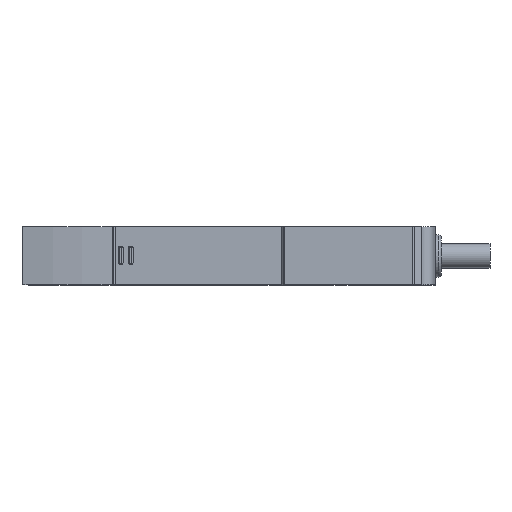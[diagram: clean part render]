
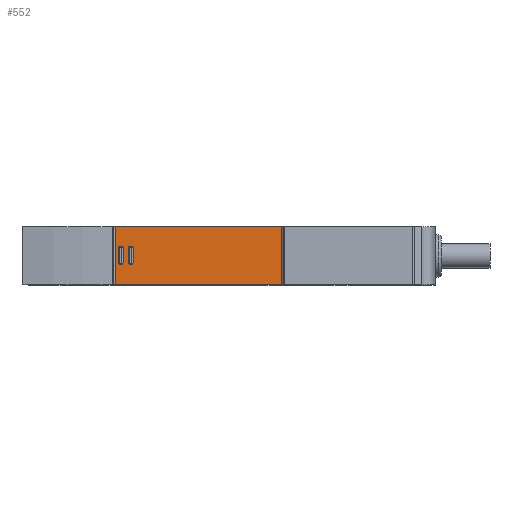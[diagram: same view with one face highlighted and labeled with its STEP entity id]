
A CAD part, top view. The second image highlights one B-rep face of the part: STEP entity #552.
In plain terms, the highlighted planar face has unit normal (0, 0, 1).
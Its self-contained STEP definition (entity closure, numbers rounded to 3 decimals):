
#552 = ADVANCED_FACE( '', ( #1146, #1147, #1148 ), #1149, .T. );
#1146 = FACE_OUTER_BOUND( '', #1759, .T. );
#1147 = FACE_BOUND( '', #1760, .T. );
#1148 = FACE_BOUND( '', #1761, .T. );
#1149 = PLANE( '', #1762 );
#1759 = EDGE_LOOP( '', ( #3389, #3390, #3391, #3392 ) );
#1760 = EDGE_LOOP( '', ( #3393, #3394, #3395, #3396, #3397, #3398, #3399, #3400 ) );
#1761 = EDGE_LOOP( '', ( #3401, #3402, #3403, #3404, #3405, #3406, #3407, #3408 ) );
#1762 = AXIS2_PLACEMENT_3D( '', #3409, #3410, #3411 );
#3389 = ORIENTED_EDGE( '', *, *, #3736, .F. );
#3390 = ORIENTED_EDGE( '', *, *, #3930, .T. );
#3391 = ORIENTED_EDGE( '', *, *, #4173, .T. );
#3392 = ORIENTED_EDGE( '', *, *, #3947, .T. );
#3393 = ORIENTED_EDGE( '', *, *, #4258, .T. );
#3394 = ORIENTED_EDGE( '', *, *, #3702, .T. );
#3395 = ORIENTED_EDGE( '', *, *, #3836, .T. );
#3396 = ORIENTED_EDGE( '', *, *, #4012, .T. );
#3397 = ORIENTED_EDGE( '', *, *, #4230, .T. );
#3398 = ORIENTED_EDGE( '', *, *, #4228, .T. );
#3399 = ORIENTED_EDGE( '', *, *, #4259, .T. );
#3400 = ORIENTED_EDGE( '', *, *, #4028, .T. );
#3401 = ORIENTED_EDGE( '', *, *, #4095, .F. );
#3402 = ORIENTED_EDGE( '', *, *, #4250, .T. );
#3403 = ORIENTED_EDGE( '', *, *, #3970, .F. );
#3404 = ORIENTED_EDGE( '', *, *, #3915, .T. );
#3405 = ORIENTED_EDGE( '', *, *, #3822, .F. );
#3406 = ORIENTED_EDGE( '', *, *, #4205, .T. );
#3407 = ORIENTED_EDGE( '', *, *, #4062, .F. );
#3408 = ORIENTED_EDGE( '', *, *, #3641, .T. );
#3409 = CARTESIAN_POINT( '', ( -25.685, -5., 18.849 ) );
#3410 = DIRECTION( '', ( 0., 0., 1. ) );
#3411 = DIRECTION( '', ( 1., 0., 0. ) );
#3641 = EDGE_CURVE( '', #4325, #4329, #4331, .F. );
#3702 = EDGE_CURVE( '', #4431, #4435, #4437, .F. );
#3736 = EDGE_CURVE( '', #4500, #4502, #4503, .T. );
#3822 = EDGE_CURVE( '', #4648, #4644, #4650, .T. );
#3836 = EDGE_CURVE( '', #4435, #4672, #4674, .T. );
#3915 = EDGE_CURVE( '', #4791, #4644, #4793, .F. );
#3930 = EDGE_CURVE( '', #4500, #4813, #4816, .F. );
#3947 = EDGE_CURVE( '', #4840, #4502, #4842, .T. );
#3970 = EDGE_CURVE( '', #4791, #4872, #4876, .T. );
#4012 = EDGE_CURVE( '', #4672, #4933, #4935, .F. );
#4028 = EDGE_CURVE( '', #4955, #4959, #4961, .F. );
#4062 = EDGE_CURVE( '', #4325, #5010, #5013, .T. );
#4095 = EDGE_CURVE( '', #5053, #4329, #5055, .T. );
#4173 = EDGE_CURVE( '', #4813, #4840, #5153, .T. );
#4205 = EDGE_CURVE( '', #4648, #5010, #5187, .F. );
#4228 = EDGE_CURVE( '', #5208, #5210, #5212, .F. );
#4230 = EDGE_CURVE( '', #4933, #5208, #5214, .T. );
#4250 = EDGE_CURVE( '', #5053, #4872, #5235, .F. );
#4258 = EDGE_CURVE( '', #4959, #4431, #5243, .T. );
#4259 = EDGE_CURVE( '', #5210, #4955, #5244, .T. );
#4325 = VERTEX_POINT( '', #5318 );
#4329 = VERTEX_POINT( '', #5323 );
#4331 = CIRCLE( '', #5326, 0.3 );
#4431 = VERTEX_POINT( '', #5510 );
#4435 = VERTEX_POINT( '', #5515 );
#4437 = CIRCLE( '', #5518, 0.3 );
#4500 = VERTEX_POINT( '', #5603 );
#4502 = VERTEX_POINT( '', #5605 );
#4503 = LINE( '', #5606, #5607 );
#4644 = VERTEX_POINT( '', #5797 );
#4648 = VERTEX_POINT( '', #5803 );
#4650 = LINE( '', #5806, #5807 );
#4672 = VERTEX_POINT( '', #5832 );
#4674 = LINE( '', #5835, #5836 );
#4791 = VERTEX_POINT( '', #6011 );
#4793 = CIRCLE( '', #6014, 0.3 );
#4813 = VERTEX_POINT( '', #6041 );
#4816 = LINE( '', #6044, #6045 );
#4840 = VERTEX_POINT( '', #6080 );
#4842 = LINE( '', #6082, #6083 );
#4872 = VERTEX_POINT( '', #6151 );
#4876 = LINE( '', #6157, #6158 );
#4933 = VERTEX_POINT( '', #6248 );
#4935 = CIRCLE( '', #6251, 0.3 );
#4955 = VERTEX_POINT( '', #6273 );
#4959 = VERTEX_POINT( '', #6278 );
#4961 = CIRCLE( '', #6281, 0.3 );
#5010 = VERTEX_POINT( '', #6377 );
#5013 = LINE( '', #6382, #6383 );
#5053 = VERTEX_POINT( '', #6440 );
#5055 = LINE( '', #6443, #6444 );
#5153 = LINE( '', #6579, #6580 );
#5187 = CIRCLE( '', #6653, 0.3 );
#5208 = VERTEX_POINT( '', #6681 );
#5210 = VERTEX_POINT( '', #6684 );
#5212 = CIRCLE( '', #6687, 0.3 );
#5214 = LINE( '', #6689, #6690 );
#5235 = CIRCLE( '', #6715, 0.3 );
#5243 = LINE( '', #6726, #6727 );
#5244 = LINE( '', #6728, #6729 );
#5318 = CARTESIAN_POINT( '', ( -22.426, -1.161, 18.849 ) );
#5323 = CARTESIAN_POINT( '', ( -22.726, -1.461, 18.849 ) );
#5326 = AXIS2_PLACEMENT_3D( '', #6800, #6801, #6802 );
#5510 = CARTESIAN_POINT( '', ( -24.624, -1.461, 18.849 ) );
#5515 = CARTESIAN_POINT( '', ( -24.924, -1.161, 18.849 ) );
#5518 = AXIS2_PLACEMENT_3D( '', #6850, #6851, #6852 );
#5603 = CARTESIAN_POINT( '', ( -25.507, 5., 18.849 ) );
#5605 = CARTESIAN_POINT( '', ( 3.073, 5., 18.849 ) );
#5606 = CARTESIAN_POINT( '', ( -25.685, 5., 18.849 ) );
#5607 = VECTOR( '', #6900, 1000. );
#5797 = CARTESIAN_POINT( '', ( -22.93, 1.63, 18.849 ) );
#5803 = CARTESIAN_POINT( '', ( -22.726, 1.63, 18.849 ) );
#5806 = CARTESIAN_POINT( '', ( -22.426, 1.63, 18.849 ) );
#5807 = VECTOR( '', #7009, 1000. );
#5832 = CARTESIAN_POINT( '', ( -24.924, 1.33, 18.849 ) );
#5835 = CARTESIAN_POINT( '', ( -24.924, -1.461, 18.849 ) );
#5836 = VECTOR( '', #7032, 1000. );
#6011 = CARTESIAN_POINT( '', ( -23.23, 1.33, 18.849 ) );
#6014 = AXIS2_PLACEMENT_3D( '', #7110, #7111, #7112 );
#6041 = CARTESIAN_POINT( '', ( -25.507, -5., 18.849 ) );
#6044 = CARTESIAN_POINT( '', ( -25.507, -5., 18.849 ) );
#6045 = VECTOR( '', #7127, 1000. );
#6080 = CARTESIAN_POINT( '', ( 3.073, -5., 18.849 ) );
#6082 = CARTESIAN_POINT( '', ( 3.073, 5., 18.849 ) );
#6083 = VECTOR( '', #7140, 1000. );
#6151 = CARTESIAN_POINT( '', ( -23.23, -1.161, 18.849 ) );
#6157 = CARTESIAN_POINT( '', ( -23.23, 1.63, 18.849 ) );
#6158 = VECTOR( '', #7168, 1000. );
#6248 = CARTESIAN_POINT( '', ( -24.624, 1.63, 18.849 ) );
#6251 = AXIS2_PLACEMENT_3D( '', #7204, #7205, #7206 );
#6273 = CARTESIAN_POINT( '', ( -24.141, -1.161, 18.849 ) );
#6278 = CARTESIAN_POINT( '', ( -24.441, -1.461, 18.849 ) );
#6281 = AXIS2_PLACEMENT_3D( '', #7232, #7233, #7234 );
#6377 = CARTESIAN_POINT( '', ( -22.426, 1.33, 18.849 ) );
#6382 = CARTESIAN_POINT( '', ( -22.426, -1.461, 18.849 ) );
#6383 = VECTOR( '', #7269, 1000. );
#6440 = CARTESIAN_POINT( '', ( -22.93, -1.461, 18.849 ) );
#6443 = CARTESIAN_POINT( '', ( -23.23, -1.461, 18.849 ) );
#6444 = VECTOR( '', #7300, 1000. );
#6579 = CARTESIAN_POINT( '', ( -25.685, -5., 18.849 ) );
#6580 = VECTOR( '', #7385, 1000. );
#6653 = AXIS2_PLACEMENT_3D( '', #7409, #7410, #7411 );
#6681 = CARTESIAN_POINT( '', ( -24.441, 1.63, 18.849 ) );
#6684 = CARTESIAN_POINT( '', ( -24.141, 1.33, 18.849 ) );
#6687 = AXIS2_PLACEMENT_3D( '', #7424, #7425, #7426 );
#6689 = CARTESIAN_POINT( '', ( -24.924, 1.63, 18.849 ) );
#6690 = VECTOR( '', #7427, 1000. );
#6715 = AXIS2_PLACEMENT_3D( '', #7434, #7435, #7436 );
#6726 = CARTESIAN_POINT( '', ( -24.141, -1.461, 18.849 ) );
#6727 = VECTOR( '', #7440, 1000. );
#6728 = CARTESIAN_POINT( '', ( -24.141, 1.63, 18.849 ) );
#6729 = VECTOR( '', #7441, 1000. );
#6800 = CARTESIAN_POINT( '', ( -22.726, -1.161, 18.849 ) );
#6801 = DIRECTION( '', ( 0., 0., 1. ) );
#6802 = DIRECTION( '', ( 1., 0., 0. ) );
#6850 = CARTESIAN_POINT( '', ( -24.624, -1.161, 18.849 ) );
#6851 = DIRECTION( '', ( 0., 0., 1. ) );
#6852 = DIRECTION( '', ( 1., 0., 0. ) );
#6900 = DIRECTION( '', ( 1., 0., 0. ) );
#7009 = DIRECTION( '', ( -1., 0., 0. ) );
#7032 = DIRECTION( '', ( 0., 1., 0. ) );
#7110 = CARTESIAN_POINT( '', ( -22.93, 1.33, 18.849 ) );
#7111 = DIRECTION( '', ( 0., 0., 1. ) );
#7112 = DIRECTION( '', ( 1., 0., 0. ) );
#7127 = DIRECTION( '', ( 0., 1., 0. ) );
#7140 = DIRECTION( '', ( 0., 1., 0. ) );
#7168 = DIRECTION( '', ( 0., -1., 0. ) );
#7204 = CARTESIAN_POINT( '', ( -24.624, 1.33, 18.849 ) );
#7205 = DIRECTION( '', ( 0., 0., 1. ) );
#7206 = DIRECTION( '', ( 1., 0., 0. ) );
#7232 = CARTESIAN_POINT( '', ( -24.441, -1.161, 18.849 ) );
#7233 = DIRECTION( '', ( 0., 0., 1. ) );
#7234 = DIRECTION( '', ( 1., 0., 0. ) );
#7269 = DIRECTION( '', ( 0., 1., 0. ) );
#7300 = DIRECTION( '', ( 1., 0., 0. ) );
#7385 = DIRECTION( '', ( 1., 0., 0. ) );
#7409 = CARTESIAN_POINT( '', ( -22.726, 1.33, 18.849 ) );
#7410 = DIRECTION( '', ( 0., 0., 1. ) );
#7411 = DIRECTION( '', ( 1., 0., 0. ) );
#7424 = CARTESIAN_POINT( '', ( -24.441, 1.33, 18.849 ) );
#7425 = DIRECTION( '', ( 0., 0., 1. ) );
#7426 = DIRECTION( '', ( 1., 0., 0. ) );
#7427 = DIRECTION( '', ( 1., 0., 0. ) );
#7434 = CARTESIAN_POINT( '', ( -22.93, -1.161, 18.849 ) );
#7435 = DIRECTION( '', ( 0., 0., 1. ) );
#7436 = DIRECTION( '', ( 1., 0., 0. ) );
#7440 = DIRECTION( '', ( -1., 0., 0. ) );
#7441 = DIRECTION( '', ( 0., -1., 0. ) );
